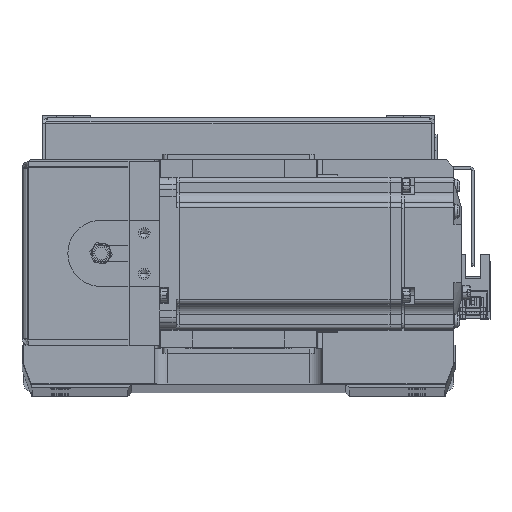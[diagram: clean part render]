
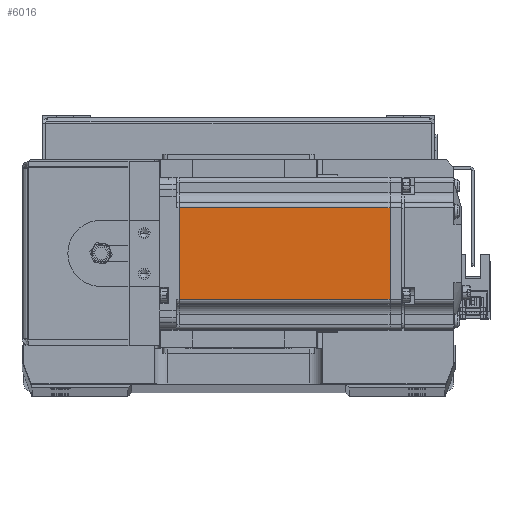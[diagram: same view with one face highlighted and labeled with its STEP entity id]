
A CAD part, top view. The second image highlights one B-rep face of the part: STEP entity #6016.
In plain terms, the highlighted planar face has unit normal (0, 0, 1) as drawn and (0, 1, 0) by its records, which use the part's own axes.
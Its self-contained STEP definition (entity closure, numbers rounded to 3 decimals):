
#1358 = EDGE_LOOP ( 'NONE', ( #33992, #8277, #4712, #20014 ) ) ;
#1563 = CARTESIAN_POINT ( 'NONE',  ( -6.5, 30., 18. ) ) ;
#1982 = LINE ( 'NONE', #1563, #18678 ) ;
#2542 = CARTESIAN_POINT ( 'NONE',  ( -7.75, 30., 18. ) ) ;
#3906 = VERTEX_POINT ( 'NONE', #35987 ) ;
#3963 = AXIS2_PLACEMENT_3D ( 'NONE', #19589, #10389, #10179 ) ;
#3998 = DIRECTION ( 'NONE',  ( 0., 0., 1. ) ) ;
#4712 = ORIENTED_EDGE ( 'NONE', *, *, #35730, .T. ) ;
#5594 = VECTOR ( 'NONE', #3998, 1000. ) ;
#6016 = ADVANCED_FACE ( 'NONE', ( #13133 ), #6633, .T. ) ;
#6633 = PLANE ( 'NONE',  #3963 ) ;
#8277 = ORIENTED_EDGE ( 'NONE', *, *, #15583, .T. ) ;
#10179 = DIRECTION ( 'NONE',  ( 0., 0., 1. ) ) ;
#10224 = VERTEX_POINT ( 'NONE', #14705 ) ;
#10389 = DIRECTION ( 'NONE',  ( 0., 1., 0. ) ) ;
#11675 = VECTOR ( 'NONE', #27193, 1000. ) ;
#13133 = FACE_OUTER_BOUND ( 'NONE', #1358, .T. ) ;
#14472 = VERTEX_POINT ( 'NONE', #19922 ) ;
#14705 = CARTESIAN_POINT ( 'NONE',  ( -90.45, 30., -18. ) ) ;
#15583 = EDGE_CURVE ( 'NONE', #14472, #10224, #24859, .T. ) ;
#15782 = CARTESIAN_POINT ( 'NONE',  ( -90.45, 30., 0. ) ) ;
#18547 = DIRECTION ( 'NONE',  ( 0., 0., 1. ) ) ;
#18678 = VECTOR ( 'NONE', #21427, 1000. ) ;
#19589 = CARTESIAN_POINT ( 'NONE',  ( -6.5, 30., 25. ) ) ;
#19922 = CARTESIAN_POINT ( 'NONE',  ( -7.75, 30., -18. ) ) ;
#19964 = VERTEX_POINT ( 'NONE', #2542 ) ;
#20014 = ORIENTED_EDGE ( 'NONE', *, *, #40863, .T. ) ;
#21427 = DIRECTION ( 'NONE',  ( 1., 0., 0. ) ) ;
#21762 = CARTESIAN_POINT ( 'NONE',  ( -6.5, 30., -18. ) ) ;
#24859 = LINE ( 'NONE', #21762, #11675 ) ;
#26343 = LINE ( 'NONE', #39270, #5594 ) ;
#27193 = DIRECTION ( 'NONE',  ( -1., 0., 0. ) ) ;
#27694 = LINE ( 'NONE', #15782, #40268 ) ;
#33992 = ORIENTED_EDGE ( 'NONE', *, *, #35212, .F. ) ;
#35212 = EDGE_CURVE ( 'NONE', #14472, #19964, #26343, .T. ) ;
#35730 = EDGE_CURVE ( 'NONE', #10224, #3906, #27694, .T. ) ;
#35987 = CARTESIAN_POINT ( 'NONE',  ( -90.45, 30., 18. ) ) ;
#39270 = CARTESIAN_POINT ( 'NONE',  ( -7.75, 30., 0. ) ) ;
#40268 = VECTOR ( 'NONE', #18547, 1000. ) ;
#40863 = EDGE_CURVE ( 'NONE', #3906, #19964, #1982, .T. ) ;
